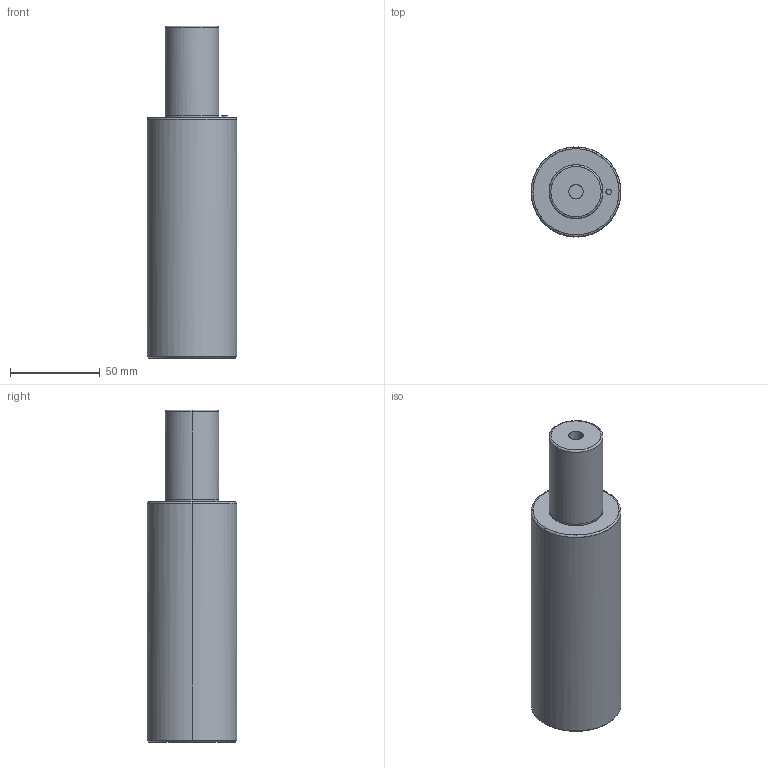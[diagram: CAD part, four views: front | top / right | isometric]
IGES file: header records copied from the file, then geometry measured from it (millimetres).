
Global section: file name: E:\UnigraphicsGraphicData\MISUMI_PRESS-PARTS\IGES\3d_gssr50-50_03956_r00.igs; native system: NX V5.0; preprocessor: UGS NX IGES V5.0; author: MISUMI; date: 20110105.160820; units: millimetre
Bounding box: 50 x 49.93 x 185 mm (x, y, z)
Surface area: 31999.4 mm2 (no closed solid volume)
Topology: 0 solids, 0 shells, 42 faces, 304 edges, 298 vertices
Faces by surface type: bspline 42
